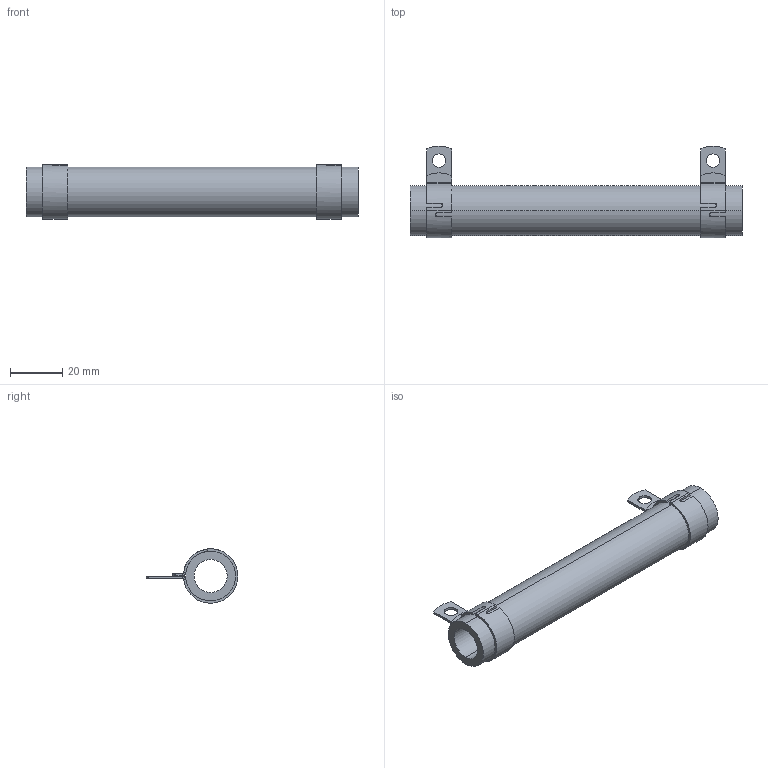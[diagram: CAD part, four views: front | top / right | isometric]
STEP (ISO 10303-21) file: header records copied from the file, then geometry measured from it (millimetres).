
FILE_DESCRIPTION (( 'STEP AP203' ), '1' );
FILE_NAME ('RBEF0135xxxxxKFB00.STEP', '2014-04-04T18:38:20', ( '' ), ( '' ), 'SwSTEP 2.0', 'SolidWorks 2012', '' );
FILE_SCHEMA (( 'CONFIG_CONTROL_DESIGN' ));
Length unit declared in the file: millimetre
Products named in the file (3): RBEF0135xxxxxKFB00; DAL15-160-XXX_DAL15-160-912-CLOSED; DAL013-04_DAL013-117
Assembly tree (3 placements, depth 2):
  RBEF0135xxxxxKFB00
    DAL013-04_DAL013-117
    DAL15-160-XXX_DAL15-160-912-CLOSED  x2
Bounding box: 127 x 35.06 x 20.83 mm (x, y, z)
Volume: 21388.3 mm3; surface area: 16243.2 mm2
Topology: 3 solids, 3 shells, 80 faces, 190 edges, 116 vertices
Faces by surface type: plane 42, cylinder 34, bspline 4
Entity records: 1706 total; most frequent: CARTESIAN_POINT 366, DIRECTION 229, ORIENTED_EDGE 202, EDGE_CURVE 101, AXIS2_PLACEMENT_3D 89, VERTEX_POINT 62, VECTOR 51, LINE 51
